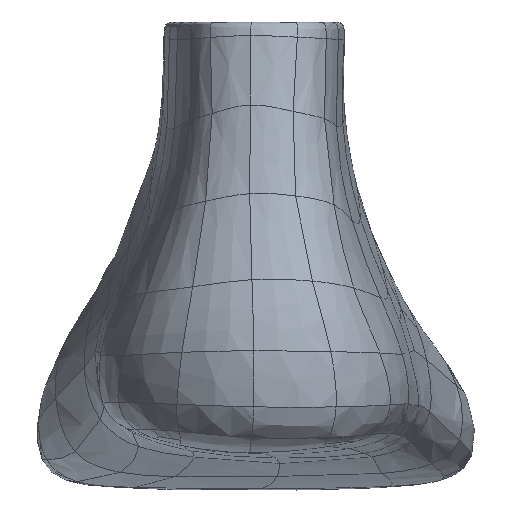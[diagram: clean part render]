
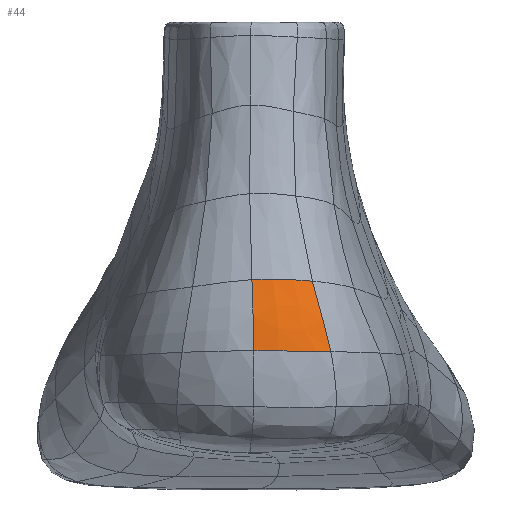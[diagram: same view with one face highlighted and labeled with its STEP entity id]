
A CAD part, left-side view. The second image highlights one B-rep face of the part: STEP entity #44.
In plain terms, the highlighted free-form (B-spline) face has degree [3, 3] with [4, 4] control points.
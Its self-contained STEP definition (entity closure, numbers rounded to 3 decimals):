
#44=ADVANCED_FACE('',(#279),#3033,.T.);
#279=FACE_OUTER_BOUND('',#514,.T.);
#514=EDGE_LOOP('',(#843,#844,#845,#846));
#843=ORIENTED_EDGE('',*,*,#2135,.F.);
#844=ORIENTED_EDGE('',*,*,#2141,.F.);
#845=ORIENTED_EDGE('',*,*,#2138,.T.);
#846=ORIENTED_EDGE('',*,*,#2134,.T.);
#2134=EDGE_CURVE('',#2909,#2907,#2633,.T.);
#2135=EDGE_CURVE('',#2912,#2907,#2634,.T.);
#2138=EDGE_CURVE('',#2914,#2909,#2637,.T.);
#2141=EDGE_CURVE('',#2914,#2912,#2640,.T.);
#2633=B_SPLINE_CURVE_WITH_KNOTS('',3,(#14032,#14033,#14034,#14035),
 .UNSPECIFIED.,.F.,.F.,(4,4),(-1.,0.),.UNSPECIFIED.);
#2634=B_SPLINE_CURVE_WITH_KNOTS('',3,(#14036,#14037,#14038,#14039),
 .UNSPECIFIED.,.F.,.F.,(4,4),(-1.,0.),.UNSPECIFIED.);
#2637=B_SPLINE_CURVE_WITH_KNOTS('',3,(#14052,#14053,#14054,#14055,#14056),
 .UNSPECIFIED.,.F.,.F.,(4,1,4),(-2.,-1.,0.),.UNSPECIFIED.);
#2640=B_SPLINE_CURVE_WITH_KNOTS('',3,(#14068,#14069,#14070,#14071),
 .UNSPECIFIED.,.F.,.F.,(4,4),(-1.,0.),.UNSPECIFIED.);
#2907=VERTEX_POINT('',#11554);
#2909=VERTEX_POINT('',#11556);
#2912=VERTEX_POINT('',#11559);
#2914=VERTEX_POINT('',#11561);
#3033=B_SPLINE_SURFACE_WITH_KNOTS('',3,3,((#4522,#4523,#4524,#4525),(#4526,
#4527,#4528,#4529),(#4530,#4531,#4532,#4533),(#4534,#4535,#4536,#4537)),
 .UNSPECIFIED.,.F.,.F.,.F.,(4,4),(4,4),(0.,1.),(0.,1.),.UNSPECIFIED.);
#4522=CARTESIAN_POINT('',(5.78,-12.457,76.618));
#4523=CARTESIAN_POINT('',(4.837,-14.064,70.402));
#4524=CARTESIAN_POINT('',(4.686,-15.725,65.035));
#4525=CARTESIAN_POINT('',(4.906,-16.761,60.074));
#4526=CARTESIAN_POINT('',(3.814,-8.382,76.991));
#4527=CARTESIAN_POINT('',(2.565,-9.685,70.735));
#4528=CARTESIAN_POINT('',(1.92,-10.877,65.238));
#4529=CARTESIAN_POINT('',(1.722,-11.562,60.175));
#4530=CARTESIAN_POINT('',(2.757,-3.206,77.239));
#4531=CARTESIAN_POINT('',(1.171,-3.89,70.985));
#4532=CARTESIAN_POINT('',(0.245,-4.498,65.412));
#4533=CARTESIAN_POINT('',(0.028,-4.834,60.282));
#4534=CARTESIAN_POINT('',(2.916,1.744,76.955));
#4535=CARTESIAN_POINT('',(1.26,1.531,70.758));
#4536=CARTESIAN_POINT('',(0.255,1.35,65.332));
#4537=CARTESIAN_POINT('',(0.063,1.284,60.273));
#11554=CARTESIAN_POINT('',(5.78,-12.457,76.618));
#11556=CARTESIAN_POINT('',(4.906,-16.761,60.074));
#11559=CARTESIAN_POINT('',(2.916,1.744,76.955));
#11561=CARTESIAN_POINT('',(0.063,1.284,60.273));
#14032=CARTESIAN_POINT('',(4.906,-16.761,60.074));
#14033=CARTESIAN_POINT('',(4.686,-15.725,65.035));
#14034=CARTESIAN_POINT('',(4.837,-14.064,70.402));
#14035=CARTESIAN_POINT('',(5.78,-12.457,76.618));
#14036=CARTESIAN_POINT('',(2.916,1.744,76.955));
#14037=CARTESIAN_POINT('',(2.757,-3.206,77.239));
#14038=CARTESIAN_POINT('',(3.814,-8.382,76.991));
#14039=CARTESIAN_POINT('',(5.78,-12.457,76.618));
#14052=CARTESIAN_POINT('',(0.063,1.284,60.273));
#14053=CARTESIAN_POINT('',(0.045,-1.775,60.278));
#14054=CARTESIAN_POINT('',(0.875,-8.198,60.229));
#14055=CARTESIAN_POINT('',(3.314,-14.161,60.125));
#14056=CARTESIAN_POINT('',(4.906,-16.761,60.074));
#14068=CARTESIAN_POINT('',(0.063,1.284,60.273));
#14069=CARTESIAN_POINT('',(0.255,1.35,65.332));
#14070=CARTESIAN_POINT('',(1.26,1.531,70.758));
#14071=CARTESIAN_POINT('',(2.916,1.744,76.955));
